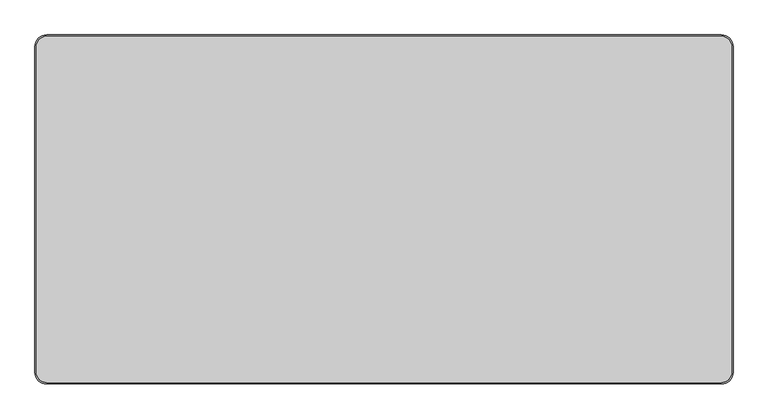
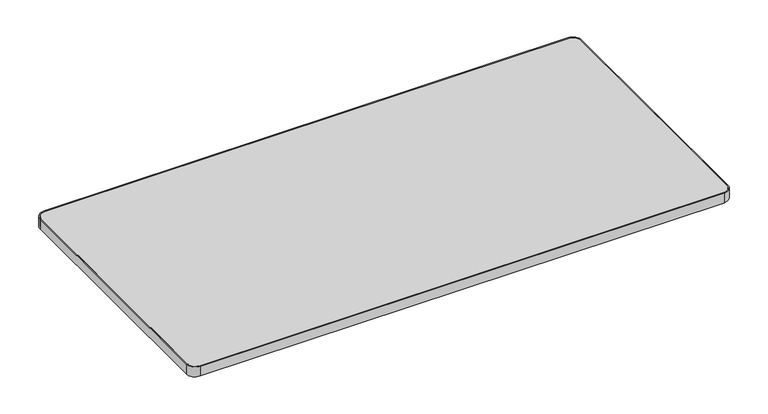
"""IFC4 building model written with IfcOpenShell, lengths in millimetres: furniture geometry, Steelcase - Groupwork - Table - Top - Rectangular : 30D x 60W - HPL."""

from ifc_helpers import new_model, si_unit, point, frame, frame_2d, origin, place, context, project, spatial, polyline, circle_curve, trimmed, segment, composite_curve, outline, extrude, source, transform, mapped, element, save


def furniture_22a0fb12(model_context):
    return source(origin(), model_context, "Body", "SweptSolid", [
        extrude(outline(composite_curve([segment(polyline([(-764.54, 378.0), (707.74, 378.0)]), True, "CONTINUOUS"), segment(trimmed(circle_curve(frame_2d((707.74, 355.14)), 22.86), [point((707.74, 378.0))], [point((730.6, 355.14))], False, "CARTESIAN"), True, "CONTINUOUS"), segment(polyline([(730.6, 355.14), (730.6, -355.14)]), True, "CONTINUOUS"), segment(trimmed(circle_curve(frame_2d((707.74, -355.14)), 22.86), [point((730.6, -355.14))], [point((707.74, -378.0))], False, "CARTESIAN"), True, "CONTINUOUS"), segment(polyline([(707.74, -378.0), (-764.54, -378.0)]), True, "CONTINUOUS"), segment(trimmed(circle_curve(frame_2d((-764.54, -355.14)), 22.86), [point((-764.54, -378.0))], [point((-787.4, -355.14))], False, "CARTESIAN"), True, "CONTINUOUS"), segment(polyline([(-787.4, -355.14), (-787.4, 355.14)]), True, "CONTINUOUS"), segment(trimmed(circle_curve(frame_2d((-764.54, 355.14)), 22.86), [point((-787.4, 355.14))], [point((-764.54, 378.0))], False, "CARTESIAN"), True, "CONTINUOUS")], self_intersect=False)), frame((0.0, 0.0, 694.944), z_axis=(0.0, 0.0, 1.0), x_axis=(1.0, 0.0, 0.0)), (0.0, 0.0, 1.0), 28.956),
        extrude(outline(composite_curve([segment(trimmed(circle_curve(frame_2d((708.1385373, 355.5385373)), 25.4614627), [point((708.1385373, 381.0))], [point((733.6, 355.5385373))], False, "CARTESIAN"), True, "CONTINUOUS"), segment(polyline([(733.6, 355.5385373), (733.6, -355.6211297)]), True, "CONTINUOUS"), segment(trimmed(circle_curve(frame_2d((708.2211297, -355.6211297)), 25.3788703), [point((733.6, -355.6211297))], [point((708.2211297, -381.0))], False, "CARTESIAN"), True, "CONTINUOUS"), segment(polyline([(708.2211297, -381.0), (-765.0, -381.0)]), True, "CONTINUOUS"), segment(trimmed(circle_curve(frame_2d((-765.0, -355.6)), 25.4), [point((-765.0, -381.0))], [point((-790.4, -355.6))], False, "CARTESIAN"), True, "CONTINUOUS"), segment(polyline([(-790.4, -355.6), (-790.4, 355.6)]), True, "CONTINUOUS"), segment(trimmed(circle_curve(frame_2d((-765.0, 355.6)), 25.4), [point((-790.4, 355.6))], [point((-765.0, 381.0))], False, "CARTESIAN"), True, "CONTINUOUS"), segment(polyline([(-765.0, 381.0), (708.1385373, 381.0)]), True, "CONTINUOUS")], self_intersect=False), holes=[composite_curve([segment(polyline([(707.8064662, 378.0), (-764.54, 378.0)]), True, "CONTINUOUS"), segment(trimmed(circle_curve(frame_2d((-764.54, 355.14)), 22.86), [point((-764.54, 378.0))], [point((-787.4, 355.14))], True, "CARTESIAN"), True, "CONTINUOUS"), segment(polyline([(-787.4, 355.14), (-787.4, -355.14)]), True, "CONTINUOUS"), segment(trimmed(circle_curve(frame_2d((-764.54, -355.14)), 22.86), [point((-787.4, -355.14))], [point((-764.54, -378.0))], True, "CARTESIAN"), True, "CONTINUOUS"), segment(polyline([(-764.54, -378.0), (707.573488, -378.0)]), True, "CONTINUOUS"), segment(trimmed(circle_curve(frame_2d((707.573488, -354.973488)), 23.026512), [point((707.573488, -378.0))], [point((730.6, -354.973488))], True, "CARTESIAN"), True, "CONTINUOUS"), segment(polyline([(730.6, -354.973488), (730.6, 355.2064662)]), True, "CONTINUOUS"), segment(trimmed(circle_curve(frame_2d((707.8064662, 355.2064662)), 22.7935338), [point((730.6, 355.2064662))], [point((707.8064662, 378.0))], True, "CARTESIAN"), True, "CONTINUOUS")], self_intersect=False)]), frame((0.0, 0.0, 694.944), z_axis=(0.0, 0.0, 1.0), x_axis=(1.0, 0.0, 0.0)), (0.0, 0.0, 1.0), 28.956),
    ])


if __name__ == "__main__":
    model = new_model("IFC4")
    model_context = context("Model", 3, world=origin())
    ifc_project = project(units=[si_unit("LENGTHUNIT", "METRE", prefix="MILLI")], contexts=[model_context])
    site = spatial("IfcSite", under=ifc_project)
    building = spatial("IfcBuilding", under=site)
    placement = place(None, origin())
    furniture_shape = furniture_22a0fb12(model_context)
    element("IfcFurniture", 1, ObjectType="Steelcase - Groupwork - Table - Top - Rectangular : 30D x 60W - HPL", at=placement, inside=building, context=model_context, shape_type="MappedRepresentation", body=[
        mapped(furniture_shape, transform((0.0, 0.0, 0.0), x_axis=(1.0, 0.0, 0.0), y_axis=(0.0, 1.0, 0.0), z_axis=(0.0, 0.0, 1.0))),
    ])
    save(model, "model.ifc")
